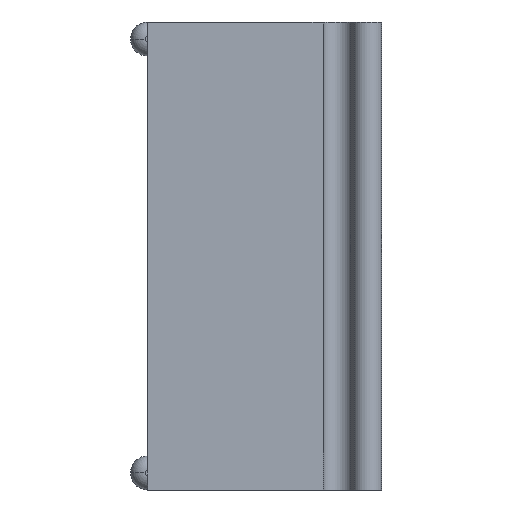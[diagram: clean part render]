
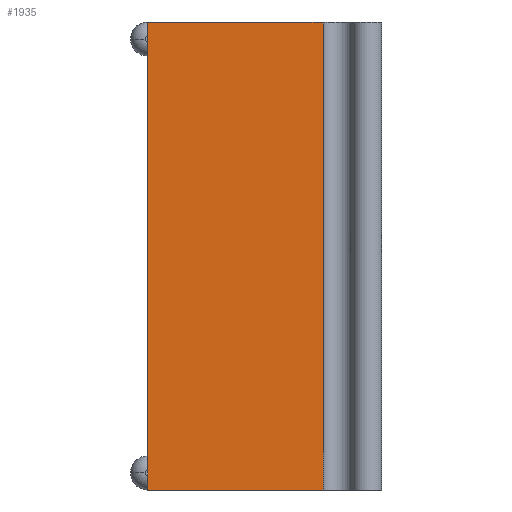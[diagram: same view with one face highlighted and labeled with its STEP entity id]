
A CAD part, front view. The second image highlights one B-rep face of the part: STEP entity #1935.
In plain terms, the highlighted planar face has unit normal (0, -1, 0).
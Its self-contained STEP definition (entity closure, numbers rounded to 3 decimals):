
#371 = LINE ( 'NONE', #3880, #1389 ) ;
#399 = ORIENTED_EDGE ( 'NONE', *, *, #2974, .T. ) ;
#403 = LINE ( 'NONE', #3748, #3918 ) ;
#480 = LINE ( 'NONE', #2138, #2556 ) ;
#563 = EDGE_CURVE ( 'NONE', #2194, #3661, #480, .T. ) ;
#772 = VERTEX_POINT ( 'NONE', #3215 ) ;
#837 = FACE_OUTER_BOUND ( 'NONE', #2033, .T. ) ;
#875 = LINE ( 'NONE', #1076, #3718 ) ;
#1076 = CARTESIAN_POINT ( 'NONE',  ( 0., 0., -24. ) ) ;
#1254 = DIRECTION ( 'NONE',  ( 0., 0., -1. ) ) ;
#1286 = CARTESIAN_POINT ( 'NONE',  ( 18., 0., 24. ) ) ;
#1389 = VECTOR ( 'NONE', #3269, 1000. ) ;
#1448 = ORIENTED_EDGE ( 'NONE', *, *, #1790, .F. ) ;
#1501 = VERTEX_POINT ( 'NONE', #1734 ) ;
#1734 = CARTESIAN_POINT ( 'NONE',  ( 0., 0., -24. ) ) ;
#1790 = EDGE_CURVE ( 'NONE', #772, #2194, #403, .T. ) ;
#1872 = AXIS2_PLACEMENT_3D ( 'NONE', #2057, #3258, #2997 ) ;
#1935 = ADVANCED_FACE ( 'NONE', ( #837 ), #2686, .F. ) ;
#2033 = EDGE_LOOP ( 'NONE', ( #1448, #3572, #399, #2985 ) ) ;
#2057 = CARTESIAN_POINT ( 'NONE',  ( 0., 0., 24. ) ) ;
#2138 = CARTESIAN_POINT ( 'NONE',  ( 18., 0., 24. ) ) ;
#2194 = VERTEX_POINT ( 'NONE', #1286 ) ;
#2556 = VECTOR ( 'NONE', #1254, 1000. ) ;
#2686 = PLANE ( 'NONE',  #1872 ) ;
#2841 = DIRECTION ( 'NONE',  ( 1., 0., 0. ) ) ;
#2974 = EDGE_CURVE ( 'NONE', #1501, #3661, #875, .T. ) ;
#2985 = ORIENTED_EDGE ( 'NONE', *, *, #563, .F. ) ;
#2997 = DIRECTION ( 'NONE',  ( -1., 0., 0. ) ) ;
#3206 = DIRECTION ( 'NONE',  ( 1., 0., 0. ) ) ;
#3215 = CARTESIAN_POINT ( 'NONE',  ( 0., 0., 24. ) ) ;
#3258 = DIRECTION ( 'NONE',  ( 0., 1., 0. ) ) ;
#3269 = DIRECTION ( 'NONE',  ( 0., 0., -1. ) ) ;
#3572 = ORIENTED_EDGE ( 'NONE', *, *, #3829, .T. ) ;
#3661 = VERTEX_POINT ( 'NONE', #3723 ) ;
#3718 = VECTOR ( 'NONE', #3206, 1000. ) ;
#3723 = CARTESIAN_POINT ( 'NONE',  ( 18., 0., -24. ) ) ;
#3748 = CARTESIAN_POINT ( 'NONE',  ( 0., 0., 24. ) ) ;
#3829 = EDGE_CURVE ( 'NONE', #772, #1501, #371, .T. ) ;
#3880 = CARTESIAN_POINT ( 'NONE',  ( 0., 0., 24. ) ) ;
#3918 = VECTOR ( 'NONE', #2841, 1000. ) ;
